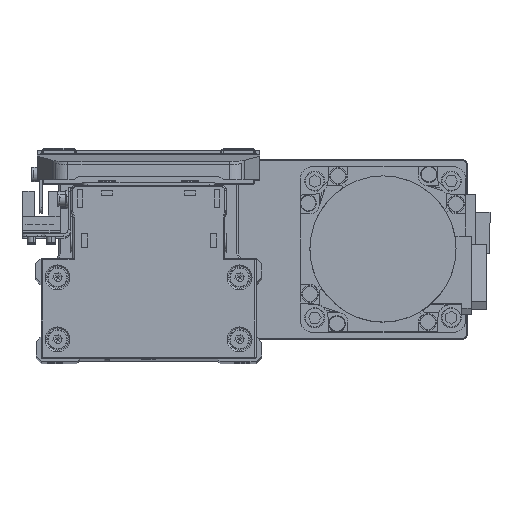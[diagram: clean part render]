
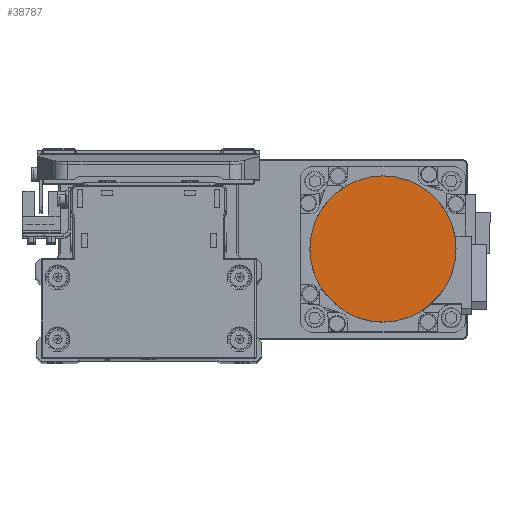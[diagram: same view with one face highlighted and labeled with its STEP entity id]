
A CAD part, top view. The second image highlights one B-rep face of the part: STEP entity #38787.
In plain terms, the highlighted planar face has unit normal (0, 0, 1) as drawn and (0, 0, -1) by its records, which use the part's own axes.
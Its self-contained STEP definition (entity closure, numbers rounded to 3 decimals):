
#1105 = CIRCLE ( 'NONE', #24011, 26.5 ) ;
#3659 = DIRECTION ( 'NONE',  ( 0., 0., 1. ) ) ;
#5549 = CARTESIAN_POINT ( 'NONE',  ( 0., 0., -109.7 ) ) ;
#7695 = AXIS2_PLACEMENT_3D ( 'NONE', #13996, #26512, #39031 ) ;
#11749 = EDGE_CURVE ( 'NONE', #31925, #19013, #1105, .T. ) ;
#12286 = EDGE_CURVE ( 'NONE', #19013, #31925, #25380, .T. ) ;
#12941 = CARTESIAN_POINT ( 'NONE',  ( -26.5, 0., -109.7 ) ) ;
#13996 = CARTESIAN_POINT ( 'NONE',  ( 0., 0., -109.7 ) ) ;
#16180 = DIRECTION ( 'NONE',  ( 1., 0., 0. ) ) ;
#18054 = DIRECTION ( 'NONE',  ( 0., 0., 1. ) ) ;
#19013 = VERTEX_POINT ( 'NONE', #12941 ) ;
#21131 = FACE_OUTER_BOUND ( 'NONE', #34638, .T. ) ;
#21451 = CARTESIAN_POINT ( 'NONE',  ( 26.5, 0., -109.7 ) ) ;
#24011 = AXIS2_PLACEMENT_3D ( 'NONE', #31762, #3659, #16180 ) ;
#25380 = CIRCLE ( 'NONE', #7695, 26.5 ) ;
#26512 = DIRECTION ( 'NONE',  ( 0., 0., 1. ) ) ;
#26551 = ORIENTED_EDGE ( 'NONE', *, *, #12286, .F. ) ;
#27745 = ORIENTED_EDGE ( 'NONE', *, *, #11749, .F. ) ;
#28202 = AXIS2_PLACEMENT_3D ( 'NONE', #5549, #18054, #30586 ) ;
#30586 = DIRECTION ( 'NONE',  ( 1., 0., 0. ) ) ;
#31762 = CARTESIAN_POINT ( 'NONE',  ( 0., 0., -109.7 ) ) ;
#31925 = VERTEX_POINT ( 'NONE', #21451 ) ;
#33641 = PLANE ( 'NONE',  #28202 ) ;
#34638 = EDGE_LOOP ( 'NONE', ( #26551, #27745 ) ) ;
#38787 = ADVANCED_FACE ( 'NONE', ( #21131 ), #33641, .F. ) ;
#39031 = DIRECTION ( 'NONE',  ( -1., 0., 0. ) ) ;
